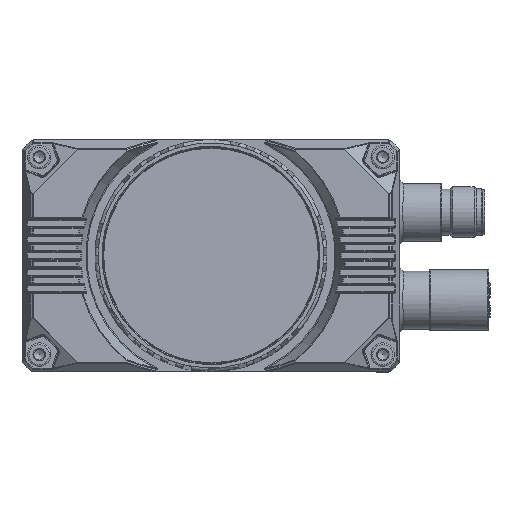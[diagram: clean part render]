
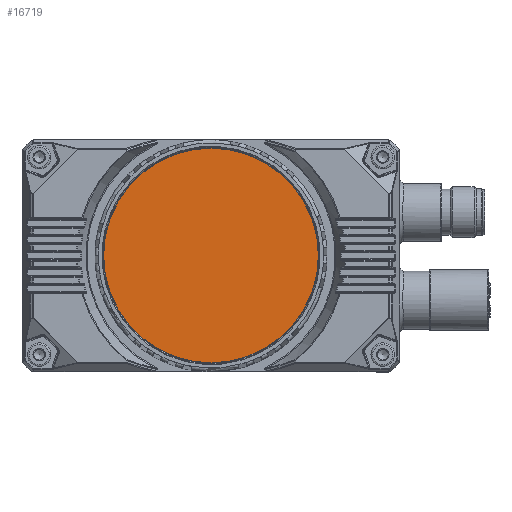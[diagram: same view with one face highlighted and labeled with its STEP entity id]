
A CAD part, top view. The second image highlights one B-rep face of the part: STEP entity #16719.
In plain terms, the highlighted planar face has unit normal (0, 0, 1).
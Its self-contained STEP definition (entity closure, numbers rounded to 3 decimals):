
#11478=CIRCLE('',#62195,25.);
#16719=ADVANCED_FACE('',(#21020),#18493,.T.);
#18493=PLANE('',#62198);
#21020=FACE_OUTER_BOUND('',#24471,.T.);
#24471=EDGE_LOOP('',(#37586));
#37586=ORIENTED_EDGE('',*,*,#50525,.T.);
#43886=VERTEX_POINT('',#115372);
#50525=EDGE_CURVE('',#43886,#43886,#11478,.T.);
#62195=AXIS2_PLACEMENT_3D('',#115371,#74408,#74409);
#62198=AXIS2_PLACEMENT_3D('',#115376,#74414,#74415);
#74408=DIRECTION('',(0.,0.,1.));
#74409=DIRECTION('',(-0.174,0.985,0.));
#74414=DIRECTION('',(0.,0.,1.));
#74415=DIRECTION('',(0.174,-0.985,0.));
#115371=CARTESIAN_POINT('',(0.,0.,100.8));
#115372=CARTESIAN_POINT('',(-4.341,24.62,100.8));
#115376=CARTESIAN_POINT('',(0.,0.,100.8));
